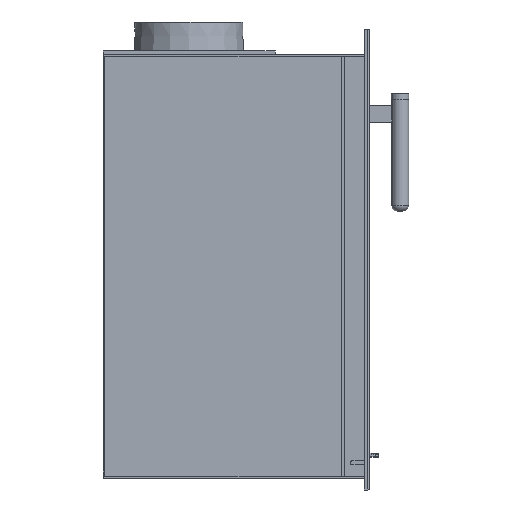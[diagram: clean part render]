
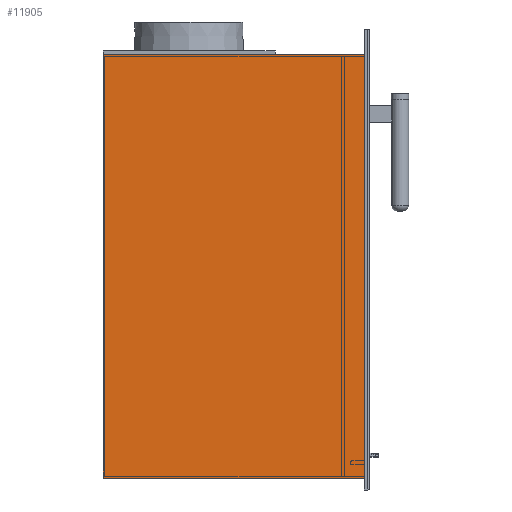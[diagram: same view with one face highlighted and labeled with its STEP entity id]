
A CAD part, left-side view. The second image highlights one B-rep face of the part: STEP entity #11905.
In plain terms, the highlighted planar face has unit normal (-1, 0, 0).
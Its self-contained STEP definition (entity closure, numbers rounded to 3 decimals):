
#1315=ORIENTED_EDGE('',*,*,#4763,.T.);
#1316=ORIENTED_EDGE('',*,*,#4754,.F.);
#1317=ORIENTED_EDGE('',*,*,#4531,.F.);
#1318=ORIENTED_EDGE('',*,*,#4801,.T.);
#4531=EDGE_CURVE('',#6296,#6297,#7416,.T.);
#4754=EDGE_CURVE('',#6297,#6519,#7591,.T.);
#4763=EDGE_CURVE('',#6526,#6519,#7600,.T.);
#4801=EDGE_CURVE('',#6296,#6526,#7630,.T.);
#6296=VERTEX_POINT('',#17202);
#6297=VERTEX_POINT('',#17204);
#6519=VERTEX_POINT('',#18170);
#6526=VERTEX_POINT('',#18187);
#7416=LINE('',#17203,#8625);
#7591=LINE('',#18169,#8800);
#7600=LINE('',#18186,#8809);
#7630=LINE('',#18262,#8839);
#8625=VECTOR('',#13793,1000.);
#8800=VECTOR('',#13970,1000.);
#8809=VECTOR('',#13981,1000.);
#8839=VECTOR('',#14063,1000.);
#9869=EDGE_LOOP('',(#1315,#1316,#1317,#1318));
#10708=FACE_BOUND('',#9869,.T.);
#11494=PLANE('',#12781);
#11905=ADVANCED_FACE('',(#10708),#11494,.F.);
#12781=AXIS2_PLACEMENT_3D('',#18261,#14061,#14062);
#13793=DIRECTION('',(0.,0.,1.));
#13970=DIRECTION('',(0.,-1.,0.));
#13981=DIRECTION('',(0.,0.,1.));
#14061=DIRECTION('',(1.,0.,0.));
#14062=DIRECTION('',(0.,0.,-1.));
#14063=DIRECTION('',(0.,-1.,0.));
#17202=CARTESIAN_POINT('',(-257.,327.5,0.));
#17203=CARTESIAN_POINT('',(-257.,327.5,0.));
#17204=CARTESIAN_POINT('',(-257.,327.5,565.));
#18169=CARTESIAN_POINT('',(-257.,327.5,565.));
#18170=CARTESIAN_POINT('',(-257.,-21.,565.));
#18186=CARTESIAN_POINT('',(-257.,-21.,0.));
#18187=CARTESIAN_POINT('',(-257.,-21.,0.));
#18261=CARTESIAN_POINT('',(-257.,327.5,0.));
#18262=CARTESIAN_POINT('',(-257.,327.5,0.));
